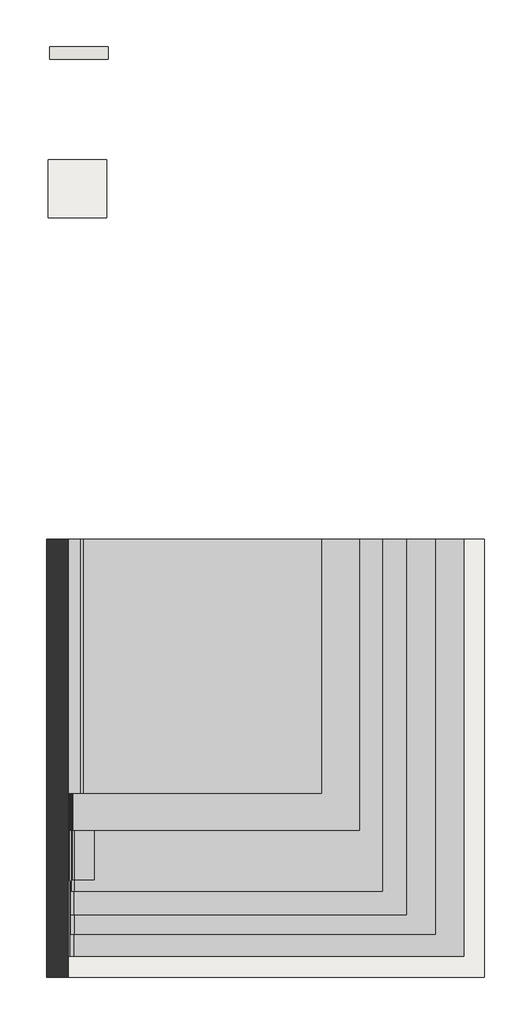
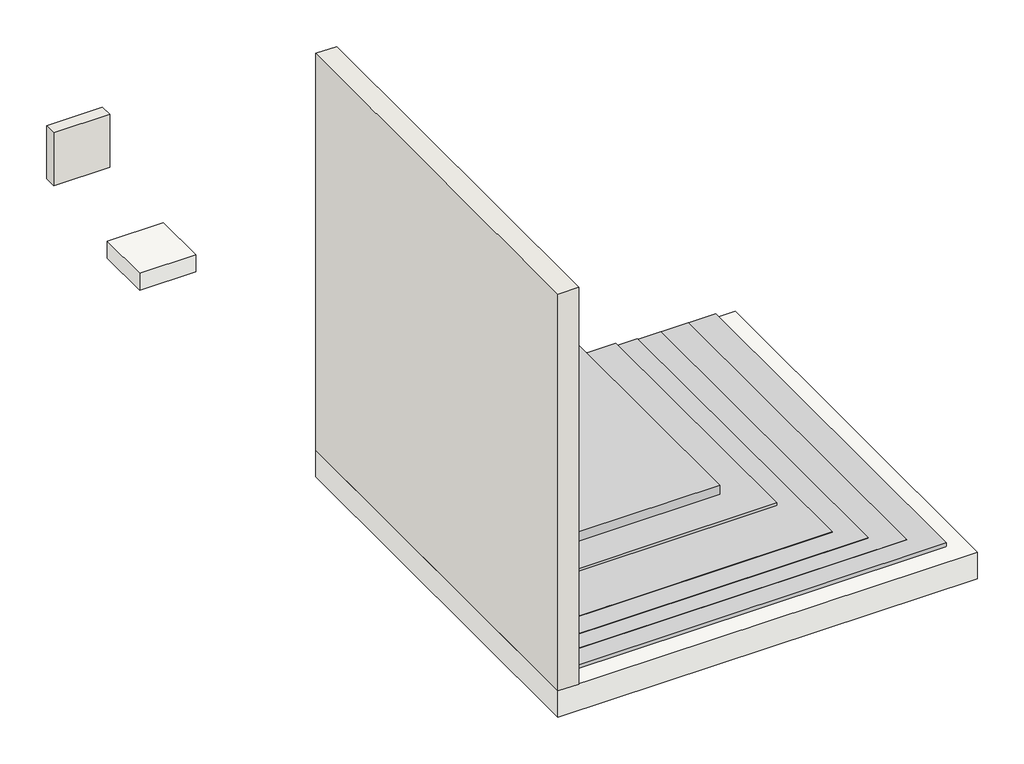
# One storey: 2 slabs, 2 walls, 1 proxy.
"""IFC4 building model written with IfcOpenShell, lengths in millimetres."""

from ifc_helpers import new_model, si_unit, frame, origin, place, context, project, spatial, polyline, outline, extrude, transform, mapped, element, save
from components import generic_models_9ae79c3e

model = new_model("IFC4")

# Units and contexts
model_context = context("Model", 3, world=origin())
ifc_project = project(units=[si_unit("LENGTHUNIT", "METRE", prefix="MILLI")], contexts=[model_context])

# Site, building, storey
site = spatial("IfcSite", under=ifc_project)
building = spatial("IfcBuilding", under=site)
storey = spatial("IfcBuildingStorey", under=building, Name="ARQ Térreo", Elevation=-2.523798)

# Proxy
placement = place(None, origin())
generic_models_shape = generic_models_9ae79c3e(model_context)
element("IfcBuildingElementProxy", 1, Name="IMPER:IMPER:433934 : IMPER:IMPER:433934", ObjectType="IMPER:IMPER:433934 : IMPER:IMPER:433934", at=placement, inside=storey, context=model_context, shape_type="MappedRepresentation", body=[
    mapped(generic_models_shape, transform((0.0, 0.0, 0.0), x_axis=(1.0, 0.0, 0.0), y_axis=(0.0, 1.0, 0.0), z_axis=(0.0, 0.0, 1.0))),
])

# Slabs
element("IfcSlab", 2, ObjectType="IMPH_T3PP+T4PP", at=placement, inside=storey, context=model_context, shape_type="SweptSolid", body=[
    extrude(outline(polyline([(-489.9954721, 2745.8700195), (-89.9954721, 2745.8700195), (-89.9954721, 2345.8700195), (-489.9954721, 2345.8700195), (-489.9954721, 2745.8700195)])), frame((0.0, 0.0, -130.523798), z_axis=(0.0, 0.0, 1.0), x_axis=(1.0, 0.0, 0.0)), (0.0, 0.0, 1.0), 128.0),
])
element("IfcSlab", 3, ObjectType="Piso:LAJE CONCRETO", at=placement, inside=storey, context=model_context, shape_type="SweptSolid", body=[
    extrude(outline(polyline([(-501.9704105, 145.8700195), (2498.0295895, 145.8700195), (2498.0295895, -2854.1299805), (-501.9704105, -2854.1299805), (-501.9704105, 145.8700195)])), frame((0.0, 0.0, -202.523798), z_axis=(0.0, 0.0, 1.0), x_axis=(1.0, 0.0, 0.0)), (0.0, 0.0, 1.0), 200.0),
])

# Walls
element("IfcWall", 4, ObjectType="Parede básica:Parede Concreto", at=placement, inside=storey, context=model_context, shape_type="SweptSolid", body=[
    extrude(outline(polyline([(-501.9704105, -2854.1299805), (-501.9704105, 145.8700195), (-351.9704105, 145.8700195), (-351.9704105, -2854.1299805), (-501.9704105, -2854.1299805)])), frame((0.0, 0.0, -2.523798), z_axis=(0.0, 0.0, 1.0), x_axis=(1.0, 0.0, 0.0)), (0.0, 0.0, 1.0), 3000.0),
])
element("IfcWall", 5, ObjectType="IMPV_T3PP+T4PP", at=placement, inside=storey, context=model_context, shape_type="SweptSolid", body=[
    extrude(outline(polyline([(-478.4579685, 3519.7426601), (-78.4579685, 3519.7426601), (-78.4579685, 3431.7426601), (-478.4579685, 3431.7426601), (-478.4579685, 3519.7426601)])), frame((0.0, 0.0, -2.523798), z_axis=(0.0, 0.0, 1.0), x_axis=(1.0, 0.0, 0.0)), (0.0, 0.0, 1.0), 400.0),
])

save(model, "model.ifc")
